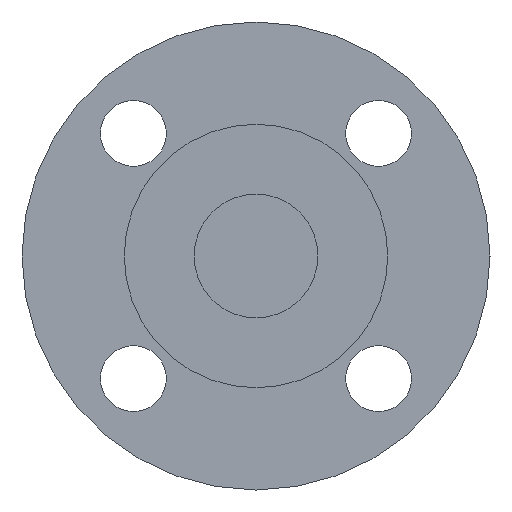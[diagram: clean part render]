
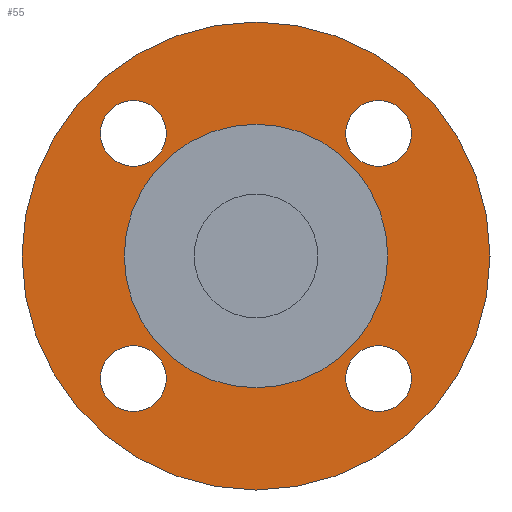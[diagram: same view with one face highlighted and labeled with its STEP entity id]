
A CAD part, left-side view. The second image highlights one B-rep face of the part: STEP entity #55.
In plain terms, the highlighted planar face has unit normal (-1, 0, 0).
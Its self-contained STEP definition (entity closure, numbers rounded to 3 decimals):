
#55=ADVANCED_FACE('',(#257,#258,#259,#260,#261,#262),#256,.T.);
#256=PLANE('',#810);
#257=FACE_OUTER_BOUND('',#811,.T.);
#258=FACE_BOUND('',#812,.T.);
#259=FACE_BOUND('',#813,.T.);
#260=FACE_BOUND('',#814,.T.);
#261=FACE_BOUND('',#815,.T.);
#262=FACE_BOUND('',#816,.T.);
#807=CARTESIAN_POINT('',(1.,-126.913,-145.));
#808=DIRECTION('',(-1.,0.,0.));
#809=DIRECTION('',(0.,0.,1.));
#810=AXIS2_PLACEMENT_3D('',#807,#808,#809);
#811=EDGE_LOOP('',(#1127,#1128));
#812=EDGE_LOOP('',(#1129,#1130));
#813=EDGE_LOOP('',(#1131,#1132));
#814=EDGE_LOOP('',(#1133,#1134));
#815=EDGE_LOOP('',(#1135,#1136));
#816=EDGE_LOOP('',(#1137,#1138));
#1127=ORIENTED_EDGE('',*,*,#1400,.T.);
#1128=ORIENTED_EDGE('',*,*,#1401,.T.);
#1129=ORIENTED_EDGE('',*,*,#1402,.F.);
#1130=ORIENTED_EDGE('',*,*,#1403,.F.);
#1131=ORIENTED_EDGE('',*,*,#1404,.F.);
#1132=ORIENTED_EDGE('',*,*,#1405,.F.);
#1133=ORIENTED_EDGE('',*,*,#1406,.F.);
#1134=ORIENTED_EDGE('',*,*,#1407,.F.);
#1135=ORIENTED_EDGE('',*,*,#1408,.F.);
#1136=ORIENTED_EDGE('',*,*,#1409,.F.);
#1137=ORIENTED_EDGE('',*,*,#1410,.F.);
#1138=ORIENTED_EDGE('',*,*,#1411,.F.);
#1400=EDGE_CURVE('',#1871,#1872,#1873,.T.);
#1401=EDGE_CURVE('',#1872,#1871,#1879,.T.);
#1402=EDGE_CURVE('',#1885,#1886,#1887,.T.);
#1403=EDGE_CURVE('',#1886,#1885,#1893,.T.);
#1404=EDGE_CURVE('',#1899,#1900,#1901,.T.);
#1405=EDGE_CURVE('',#1900,#1899,#1907,.T.);
#1406=EDGE_CURVE('',#1913,#1914,#1915,.T.);
#1407=EDGE_CURVE('',#1914,#1913,#1921,.T.);
#1408=EDGE_CURVE('',#1927,#1928,#1929,.T.);
#1409=EDGE_CURVE('',#1928,#1927,#1935,.T.);
#1410=EDGE_CURVE('',#1941,#1942,#1943,.T.);
#1411=EDGE_CURVE('',#1942,#1941,#1949,.T.);
#1871=VERTEX_POINT('',#2698);
#1872=VERTEX_POINT('',#2699);
#1873=CIRCLE('',#2703,67.5);
#1879=CIRCLE('',#2707,67.5);
#1885=VERTEX_POINT('',#2708);
#1886=VERTEX_POINT('',#2709);
#1887=CIRCLE('',#2713,9.5);
#1893=CIRCLE('',#2717,9.5);
#1899=VERTEX_POINT('',#2718);
#1900=VERTEX_POINT('',#2719);
#1901=CIRCLE('',#2723,9.5);
#1907=CIRCLE('',#2727,9.5);
#1913=VERTEX_POINT('',#2728);
#1914=VERTEX_POINT('',#2729);
#1915=CIRCLE('',#2733,9.5);
#1921=CIRCLE('',#2737,9.5);
#1927=VERTEX_POINT('',#2738);
#1928=VERTEX_POINT('',#2739);
#1929=CIRCLE('',#2743,38.);
#1935=CIRCLE('',#2747,38.);
#1941=VERTEX_POINT('',#2748);
#1942=VERTEX_POINT('',#2749);
#1943=CIRCLE('',#2753,9.5);
#1949=CIRCLE('',#2757,9.5);
#2698=CARTESIAN_POINT('',(1.,0.,67.5));
#2699=CARTESIAN_POINT('',(1.,0.,-67.5));
#2700=CARTESIAN_POINT('',(1.,0.,0.));
#2701=DIRECTION('',(-1.,0.,0.));
#2702=DIRECTION('',(0.,0.,1.));
#2703=AXIS2_PLACEMENT_3D('',#2700,#2701,#2702);
#2704=CARTESIAN_POINT('',(1.,0.,0.));
#2705=DIRECTION('',(-1.,0.,0.));
#2706=DIRECTION('',(0.,0.,1.));
#2707=AXIS2_PLACEMENT_3D('',#2704,#2705,#2706);
#2708=CARTESIAN_POINT('',(1.,-35.355,-25.855));
#2709=CARTESIAN_POINT('',(1.,-35.355,-44.855));
#2710=CARTESIAN_POINT('',(1.,-35.355,-35.355));
#2711=DIRECTION('',(-1.,0.,0.));
#2712=DIRECTION('',(0.,0.,-1.));
#2713=AXIS2_PLACEMENT_3D('',#2710,#2711,#2712);
#2714=CARTESIAN_POINT('',(1.,-35.355,-35.355));
#2715=DIRECTION('',(-1.,0.,0.));
#2716=DIRECTION('',(0.,0.,-1.));
#2717=AXIS2_PLACEMENT_3D('',#2714,#2715,#2716);
#2718=CARTESIAN_POINT('',(1.,35.356,-25.855));
#2719=CARTESIAN_POINT('',(1.,35.356,-44.855));
#2720=CARTESIAN_POINT('',(1.,35.356,-35.355));
#2721=DIRECTION('',(-1.,0.,0.));
#2722=DIRECTION('',(0.,0.,-1.));
#2723=AXIS2_PLACEMENT_3D('',#2720,#2721,#2722);
#2724=CARTESIAN_POINT('',(1.,35.356,-35.355));
#2725=DIRECTION('',(-1.,0.,0.));
#2726=DIRECTION('',(0.,0.,-1.));
#2727=AXIS2_PLACEMENT_3D('',#2724,#2725,#2726);
#2728=CARTESIAN_POINT('',(1.,35.356,44.855));
#2729=CARTESIAN_POINT('',(1.,35.356,25.855));
#2730=CARTESIAN_POINT('',(1.,35.356,35.355));
#2731=DIRECTION('',(-1.,0.,0.));
#2732=DIRECTION('',(0.,0.,-1.));
#2733=AXIS2_PLACEMENT_3D('',#2730,#2731,#2732);
#2734=CARTESIAN_POINT('',(1.,35.356,35.355));
#2735=DIRECTION('',(-1.,0.,0.));
#2736=DIRECTION('',(0.,0.,-1.));
#2737=AXIS2_PLACEMENT_3D('',#2734,#2735,#2736);
#2738=CARTESIAN_POINT('',(1.,0.,-38.));
#2739=CARTESIAN_POINT('',(1.,0.,38.));
#2740=CARTESIAN_POINT('',(1.,0.,0.));
#2741=DIRECTION('',(-1.,0.,0.));
#2742=DIRECTION('',(0.,0.,1.));
#2743=AXIS2_PLACEMENT_3D('',#2740,#2741,#2742);
#2744=CARTESIAN_POINT('',(1.,0.,0.));
#2745=DIRECTION('',(-1.,0.,0.));
#2746=DIRECTION('',(0.,0.,1.));
#2747=AXIS2_PLACEMENT_3D('',#2744,#2745,#2746);
#2748=CARTESIAN_POINT('',(1.,-35.355,44.855));
#2749=CARTESIAN_POINT('',(1.,-35.355,25.855));
#2750=CARTESIAN_POINT('',(1.,-35.355,35.355));
#2751=DIRECTION('',(-1.,0.,0.));
#2752=DIRECTION('',(0.,0.,-1.));
#2753=AXIS2_PLACEMENT_3D('',#2750,#2751,#2752);
#2754=CARTESIAN_POINT('',(1.,-35.355,35.355));
#2755=DIRECTION('',(-1.,0.,0.));
#2756=DIRECTION('',(0.,0.,-1.));
#2757=AXIS2_PLACEMENT_3D('',#2754,#2755,#2756);
